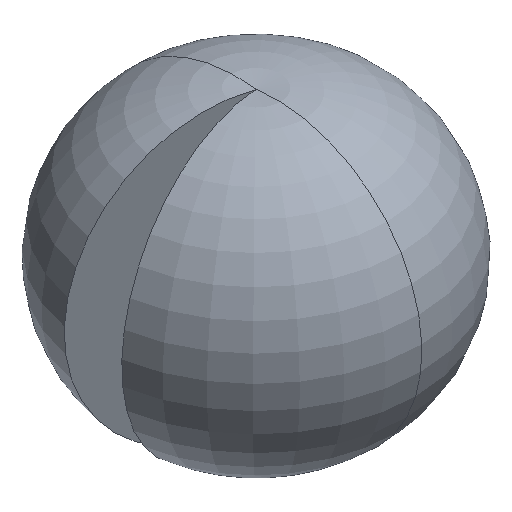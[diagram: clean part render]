
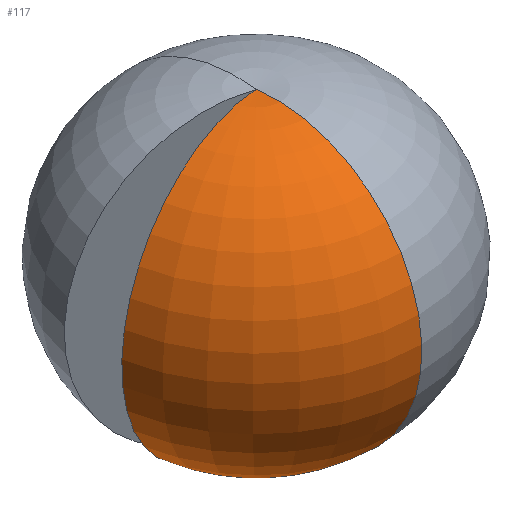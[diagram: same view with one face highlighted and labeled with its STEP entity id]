
A CAD part, isometric view. The second image highlights one B-rep face of the part: STEP entity #117.
In plain terms, the highlighted toroidal (fillet/blend) face has major radius 279.64 mm and minor radius 2020.25 mm.
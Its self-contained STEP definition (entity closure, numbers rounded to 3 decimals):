
#13 = DIRECTION ( 'NONE',  ( 0., 0., 1. ) ) ;
#47 = DIRECTION ( 'NONE',  ( 0., 0., 1. ) ) ;
#86 = TOROIDAL_SURFACE ( 'NONE', #488, 279.64, 2020.245 ) ;
#94 = ORIENTED_EDGE ( 'NONE', *, *, #482, .F. ) ;
#101 = AXIS2_PLACEMENT_3D ( 'NONE', #475, #339, #13 ) ;
#116 = DIRECTION ( 'NONE',  ( -0.985, -0.174, 0. ) ) ;
#117 = ADVANCED_FACE ( 'NONE', ( #338 ), #86, .T. ) ;
#120 = ORIENTED_EDGE ( 'NONE', *, *, #435, .T. ) ;
#142 = DIRECTION ( 'NONE',  ( 0., -1., 0. ) ) ;
#162 = ORIENTED_EDGE ( 'NONE', *, *, #380, .T. ) ;
#187 = CARTESIAN_POINT ( 'NONE',  ( 0., 0., 670. ) ) ;
#202 = VERTEX_POINT ( 'NONE', #416 ) ;
#288 = CARTESIAN_POINT ( 'NONE',  ( 0., 0., 2670.798 ) ) ;
#289 = CARTESIAN_POINT ( 'NONE',  ( -1416.552, -249.776, -984.888 ) ) ;
#296 = CARTESIAN_POINT ( 'NONE',  ( -275.391, -48.559, 670. ) ) ;
#300 = CARTESIAN_POINT ( 'NONE',  ( 0., 0., -984.888 ) ) ;
#301 = DIRECTION ( 'NONE',  ( -0.174, 0.985, 0. ) ) ;
#338 = FACE_OUTER_BOUND ( 'NONE', #541, .T. ) ;
#339 = DIRECTION ( 'NONE',  ( -1., 0., 0. ) ) ;
#360 = CIRCLE ( 'NONE', #101, 2020.245 ) ;
#365 = VERTEX_POINT ( 'NONE', #289 ) ;
#380 = EDGE_CURVE ( 'NONE', #202, #381, #360, .T. ) ;
#381 = VERTEX_POINT ( 'NONE', #288 ) ;
#389 = DIRECTION ( 'NONE',  ( 0., 0., 1. ) ) ;
#416 = CARTESIAN_POINT ( 'NONE',  ( 0., -1438.405, -984.888 ) ) ;
#435 = EDGE_CURVE ( 'NONE', #365, #202, #567, .T. ) ;
#439 = AXIS2_PLACEMENT_3D ( 'NONE', #300, #389, #524 ) ;
#475 = CARTESIAN_POINT ( 'NONE',  ( 0., -279.64, 670. ) ) ;
#482 = EDGE_CURVE ( 'NONE', #365, #381, #581, .T. ) ;
#488 = AXIS2_PLACEMENT_3D ( 'NONE', #187, #47, #142 ) ;
#524 = DIRECTION ( 'NONE',  ( 0., -1., 0. ) ) ;
#531 = AXIS2_PLACEMENT_3D ( 'NONE', #296, #301, #116 ) ;
#541 = EDGE_LOOP ( 'NONE', ( #120, #162, #94 ) ) ;
#567 = CIRCLE ( 'NONE', #439, 1438.405 ) ;
#581 = CIRCLE ( 'NONE', #531, 2020.245 ) ;
